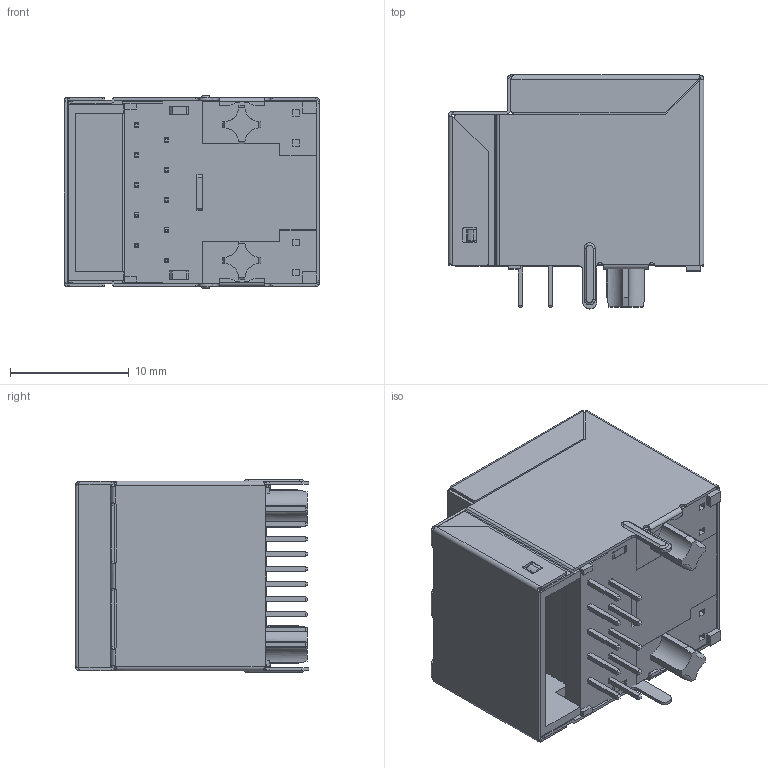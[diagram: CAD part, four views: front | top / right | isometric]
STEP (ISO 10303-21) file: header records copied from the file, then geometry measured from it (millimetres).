
FILE_DESCRIPTION((''),'2;1');
FILE_NAME('DGKYD511Q106AC2A1D068_ASM','2021-12-03T18:55:31',('Administrator'),(''),'CREO PARAMETRIC BY PTC INC, 2018400','CREO PARAMETRIC BY PTC INC, 2018400','');
FILE_SCHEMA(('CONFIG_CONTROL_DESIGN'));
Length unit declared in the file: millimetre
Products named in the file (16): MSBR-25; MSBR-23; MSBR-21; MSBR-20; MSBR-16; MSBR-15; MSBR-12; MSBR-11; MSBR-10; MSBR-9; MSBR-8; MSBR-7; MSBR-6; MSBR-5; MSBR-4; DGKYD511Q106AC2A1D068_ASM
Assembly tree (23 placements, depth 2):
  DGKYD511Q106AC2A1D068_ASM
    MSBR-25
    MSBR-23
    MSBR-21  x5
    MSBR-20
    MSBR-16
    MSBR-15
    MSBR-12  x5
    MSBR-11
    MSBR-10
    MSBR-9
    MSBR-8
    MSBR-7
    MSBR-6
    MSBR-5
    MSBR-4
Bounding box: 21.55 x 19.7 x 16.23 mm (x, y, z)
Volume: 2321.6 mm3; surface area: 7591.6 mm2
Topology: 23 solids, 23 shells, 1307 faces, 3568 edges, 2288 vertices
Faces by surface type: plane 992, cylinder 257, bspline 54, torus 4
Entity records: 39607 total; most frequent: CARTESIAN_POINT 8854, ORIENTED_EDGE 6592, DIRECTION 5949, EDGE_CURVE 3296, VECTOR 2691, LINE 2691, VERTEX_POINT 2128, AXIS2_PLACEMENT_3D 1629
